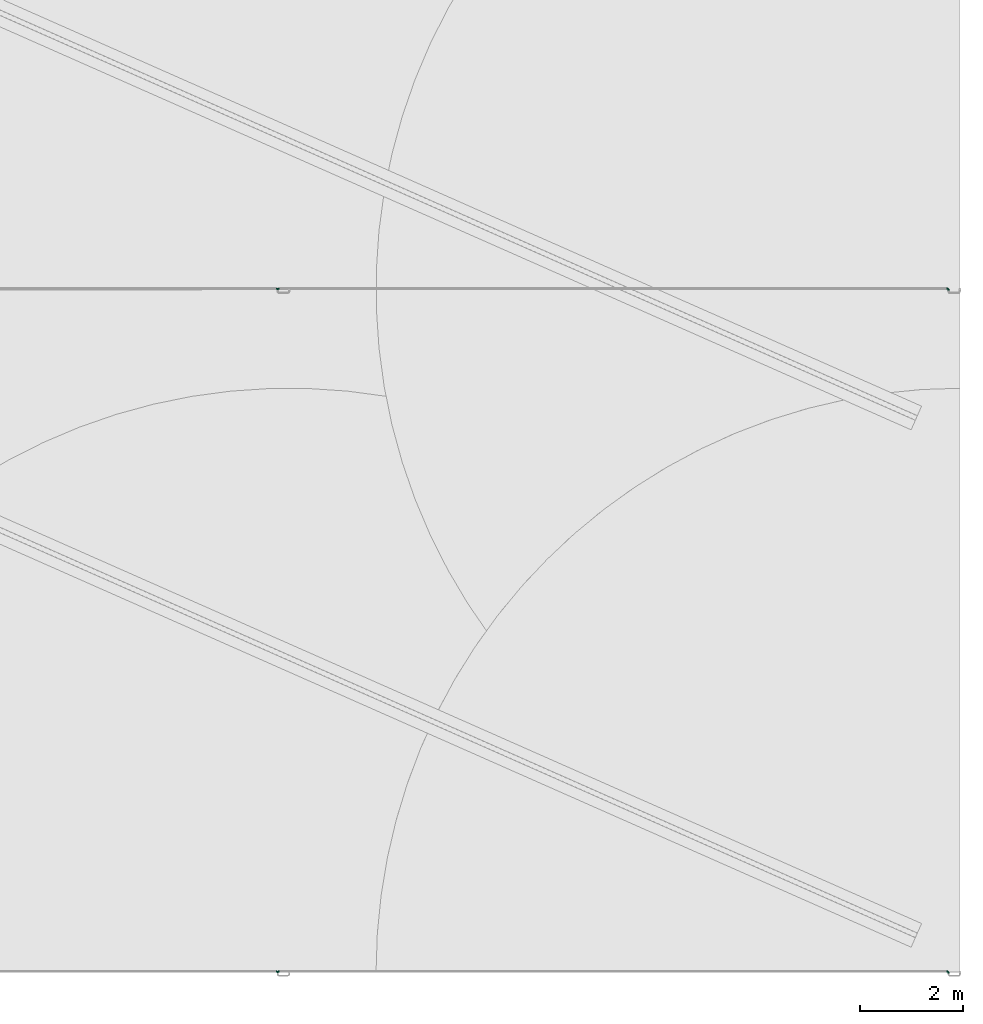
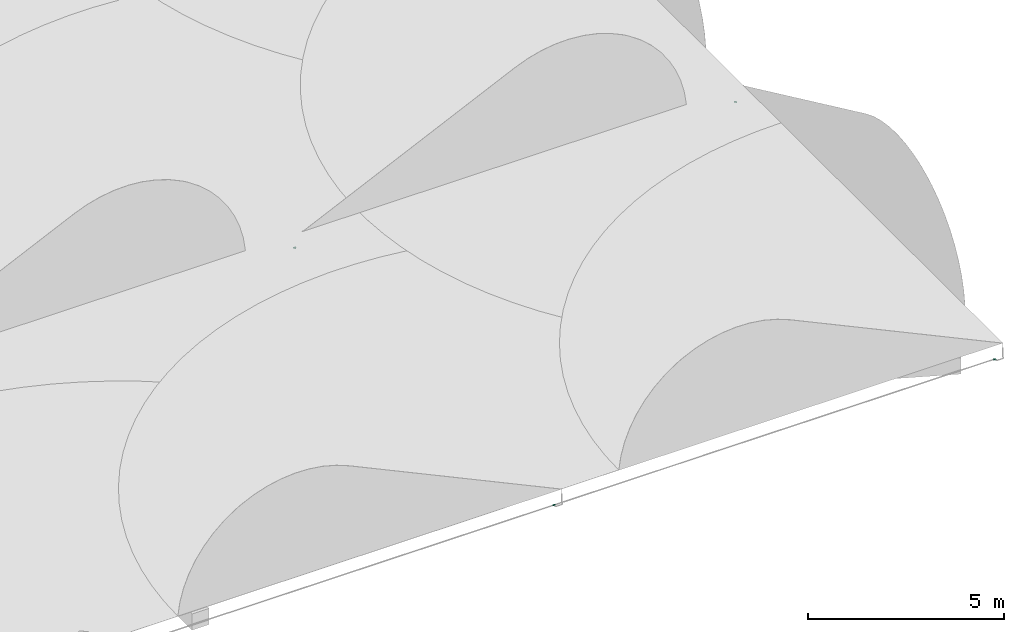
# One storey, part 154 of 166: 4 flow fittings.
"""IFC2X3 building model written with IfcOpenShell, lengths in metres."""

from ifc_helpers import new_model, entity, si_unit, converted_unit, direction, frame, origin, place, context, subcontext, project, spatial, faceted_brep, source, transform, mapped, material, type_object, type_shapes, element, save


model = new_model("IFC2X3")

# Units and contexts
model_context = context("Model", 3, precision=1e-05, world=origin(), true_north=direction((6.123233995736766e-17, 1.0)))
body_context = subcontext(model_context, "Body", "Model", "MODEL_VIEW")
ifc_project = project(units=[si_unit("LENGTHUNIT", "METRE"), converted_unit("PLANEANGLEUNIT", "DEGREE", entity("IfcPlaneAngleMeasure", 0.017453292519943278), si_unit("PLANEANGLEUNIT", "RADIAN"), dimensions=[0, 0, 0, 0, 0, 0, 0]), si_unit("AREAUNIT", "SQUARE_METRE")], contexts=[model_context])

# Site, building, storey
site_placement = place(None, origin())
site = spatial("IfcSite", under=ifc_project, at=site_placement, Name="Default", CompositionType="ELEMENT")
building_placement = place(site_placement, origin())
building = spatial("IfcBuilding", under=site, at=building_placement, Name="CASA DE ACOLHIDA PARA IDOSOS", CompositionType="ELEMENT")
storey_placement = place(building_placement, frame((0.0, 0.0, -1.7499999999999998)))
storey = spatial("IfcBuildingStorey", under=building, at=storey_placement, Name="IMPLANTAÇÃO DRENAGEM", CompositionType="ELEMENT", Elevation=-1.7499999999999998)

# Flow fittings
ifc_material = material(Name="PVC Branco")
pipe_fitting_type_1 = type_object("IfcPipeFittingType", Name="AF_Roscavel_Te_Reducao:Standard", PredefinedType="NOTDEFINED", material=ifc_material)
shared_shape_1 = source(origin(), body_context, "Body", "Brep", [
    faceted_brep([(-0.009400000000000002, 0.014040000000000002, 0.0), (-0.010499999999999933, 0.011611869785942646, -0.0063642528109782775), (-0.010500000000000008, 0.012355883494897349, -0.005006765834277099), (-0.010499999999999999, 0.0150999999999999, 0.0), (-0.009399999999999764, 0.008784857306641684, -0.006794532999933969), (-0.010499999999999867, 0.008123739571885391, -0.012728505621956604), (-0.009949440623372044, -0.009949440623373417, -0.010643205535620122), (-0.009399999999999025, -0.0019155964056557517, -0.012258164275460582), (-0.009399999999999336, -0.003706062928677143, -0.011820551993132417), (-0.009399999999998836, -0.006553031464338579, -0.011124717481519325), (-0.009399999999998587, -0.007976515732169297, -0.010776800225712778), (-0.009399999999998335, -0.009400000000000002, -0.010428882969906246), (-0.010499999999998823, -0.0025360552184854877, -0.011654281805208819), (-0.009399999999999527, 0.003529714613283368, -0.01358906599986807), (-0.010499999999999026, -0.0011881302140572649, -0.01179011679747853), (-0.01049999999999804, -0.010500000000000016, -0.010851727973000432), (-0.009949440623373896, -0.009949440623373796, 0.01064320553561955), (-0.009400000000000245, -0.009400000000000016, 0.010428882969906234), (-0.009400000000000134, -0.00657052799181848, 0.010641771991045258), (-0.009400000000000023, -0.0037410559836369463, 0.010854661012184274), (-0.00940000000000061, -0.0008331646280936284, 0.011073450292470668), (-0.009400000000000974, 0.007733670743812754, 0.011718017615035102), (-0.010500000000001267, 0.009299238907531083, 0.007344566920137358), (-0.010500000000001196, 0.003498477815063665, 0.014689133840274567), (-0.00940000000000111, 0.01088683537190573, 0.00585900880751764), (-0.010500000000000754, -0.002518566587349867, 0.013039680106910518), (-0.0105000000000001, -0.003500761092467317, 0.012770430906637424), (-0.010500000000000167, -0.010500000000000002, 0.01085172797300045), (-0.009399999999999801, 0.0019178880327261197, 0.011280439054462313), (-0.003273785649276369, -0.003273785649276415, 0.013652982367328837), (-0.0071620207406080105, -0.0071620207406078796, 0.011606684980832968), (0.00940000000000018, 0.0019178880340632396, 0.011280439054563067), (0.009400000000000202, 0.007733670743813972, 0.011718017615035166), (0.0, 0.0, 0.014039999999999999), (0.009400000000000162, -0.003741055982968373, 0.010854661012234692), (0.009400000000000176, -0.0008331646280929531, 0.011073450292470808), (0.006450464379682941, -0.006450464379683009, 0.012470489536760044), (0.00833239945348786, -0.008332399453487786, 0.01116785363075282), (0.009400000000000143, -0.009399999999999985, 0.010428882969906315), (0.009400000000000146, -0.00798526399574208, 0.010535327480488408), (0.009400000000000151, -0.006570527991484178, 0.010641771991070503), (0.009400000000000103, 0.01088683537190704, 0.005859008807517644), (0.009400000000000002, 0.014039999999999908, 0.0), (0.009399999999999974, 0.008784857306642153, -0.006794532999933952), (0.009399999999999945, 0.003529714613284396, -0.013589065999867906), (0.0, 0.0, -0.014039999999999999), (-0.006450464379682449, -0.006450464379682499, -0.012470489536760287), (-0.008332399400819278, -0.008332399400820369, -0.011167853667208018), (0.009400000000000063, -0.006553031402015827, -0.011124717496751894), (0.009400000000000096, -0.009399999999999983, -0.010428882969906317), (0.0071620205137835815, -0.0071620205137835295, -0.011606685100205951), (0.0032737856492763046, -0.0032737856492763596, -0.013652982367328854), (0.009400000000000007, -0.0019155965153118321, -0.012258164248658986), (0.009400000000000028, -0.0037060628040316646, -0.01182055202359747), (0.010499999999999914, 0.008123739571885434, 0.012728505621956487), (0.010499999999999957, 0.011611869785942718, 0.006364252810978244), (0.010500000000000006, -0.002536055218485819, 0.01165428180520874), (0.010499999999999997, -0.001188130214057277, 0.011790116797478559), (0.010499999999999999, 0.0151, 0.0), (0.009949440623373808, -0.00994944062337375, 0.010643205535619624), (0.010499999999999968, 0.012355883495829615, 0.005006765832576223), (0.010500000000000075, -0.01049999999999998, 0.010851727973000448), (0.010500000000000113, -0.002518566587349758, -0.013039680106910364), (0.00994944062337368, -0.009949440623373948, -0.010643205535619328), (0.010500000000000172, 0.0034984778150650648, -0.014689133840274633), (0.010500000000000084, 0.009299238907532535, -0.007344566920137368), (0.010500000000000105, -0.0035007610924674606, -0.012770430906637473), (0.010500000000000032, -0.010499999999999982, -0.010851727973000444), (-0.032, -0.007550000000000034, -0.013076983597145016), (-0.032, -0.0125, 0.0), (-0.032, -0.006250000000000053, -0.010825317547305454), (-0.032, -0.011325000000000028, -0.00653849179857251), (-0.032, 0.0062499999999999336, -0.010825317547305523), (-0.032, 0.0, -0.013076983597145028), (-0.032, -0.015100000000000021, 0.0), (-0.032, -0.006250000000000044, 0.010825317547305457), (-0.032, -0.011324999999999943, 0.006538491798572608), (-0.032, -0.00754999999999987, 0.01307698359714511), (-0.032, 0.006249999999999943, 0.010825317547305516), (-0.032, 0.0, 0.013076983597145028), (-0.032, 0.007550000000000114, 0.013076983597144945), (-0.032, 0.012256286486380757, 0.004925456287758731), (-0.032, 0.015099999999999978, 0.0), (-0.032, 0.0125, 0.0), (-0.032, 0.011324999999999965, -0.006538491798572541), (-0.032, 0.0075499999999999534, -0.01307698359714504), (-0.013760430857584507, -0.013760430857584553, 0.006217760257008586), (-0.015099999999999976, -0.015100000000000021, 0.0), (0.032000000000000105, -0.01132500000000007, 0.0065384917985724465), (0.015100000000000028, -0.0151, 0.0), (0.032000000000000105, -0.0151, 0.0), (-0.013760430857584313, -0.013760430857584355, -0.006217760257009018), (0.032000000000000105, -0.011324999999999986, -0.0065384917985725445), (0.032000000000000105, 0.007550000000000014, -0.013076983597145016), (0.032000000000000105, 0.0125, 0.0), (0.032000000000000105, 0.006250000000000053, -0.010825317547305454), (0.032000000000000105, 0.012256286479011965, -0.004925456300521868), (0.032000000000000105, -0.0062499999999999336, -0.010825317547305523), (0.032000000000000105, 0.0, -0.013076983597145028), (0.032000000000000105, 0.0151, 0.0), (0.032000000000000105, 0.006250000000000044, 0.010825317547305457), (0.032000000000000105, 0.011324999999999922, 0.006538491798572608), (0.032000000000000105, 0.00754999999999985, 0.01307698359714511), (0.032000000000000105, -0.006249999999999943, 0.010825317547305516), (0.032000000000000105, 0.0, 0.013076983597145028), (0.032000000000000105, -0.007550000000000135, 0.013076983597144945), (0.032000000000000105, -0.0125, 0.0), (0.032000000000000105, -0.007549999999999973, -0.01307698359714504), (0.013760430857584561, -0.013760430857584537, 0.00621776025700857), (0.013760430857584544, -0.013760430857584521, -0.006217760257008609), (-0.01589999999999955, -0.0125, 0.0), (-0.01589999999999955, -0.006250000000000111, 0.010825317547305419), (-0.01589999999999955, 0.006249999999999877, 0.010825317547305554), (-0.01589999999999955, 0.0125, 0.0), (-0.01589999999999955, 0.006250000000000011, -0.010825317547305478), (-0.01589999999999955, -0.0062499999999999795, -0.010825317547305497), (0.01590000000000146, -0.012499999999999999, 0.0), (0.015900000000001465, -0.006249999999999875, 0.010825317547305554), (0.015900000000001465, 0.006250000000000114, 0.010825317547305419), (0.006250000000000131, -0.031999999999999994, 0.010825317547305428), (-0.006249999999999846, -0.03200000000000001, 0.01082531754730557), (-0.006249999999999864, -0.015900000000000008, 0.010825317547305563), (0.006250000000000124, -0.015900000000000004, 0.010825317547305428), (0.015900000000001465, 0.012500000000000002, 0.0), (0.015900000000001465, 0.006249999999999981, -0.010825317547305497), (0.015900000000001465, -0.006250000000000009, -0.010825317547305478), (-0.0062499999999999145, -0.03200000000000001, -0.010825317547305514), (0.006250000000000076, -0.031999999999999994, -0.010825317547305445), (0.006249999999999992, -0.015900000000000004, -0.01082531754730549), (-0.006249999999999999, -0.015900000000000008, -0.010825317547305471), (0.012500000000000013, -0.0159, 0.0), (-0.012499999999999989, -0.01590000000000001, 0.0), (0.012500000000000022, -0.03199999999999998, 0.0), (-0.01249999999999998, -0.03200000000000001, 0.0), (-0.005668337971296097, -0.00940000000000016, -0.01186229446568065), (9.767713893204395e-07, -0.009400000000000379, -0.014039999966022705), (0.005668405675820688, -0.009399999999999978, 0.011862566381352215), (9.767713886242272e-07, -0.00939999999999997, 0.014039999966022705), (0.0016561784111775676, -0.010500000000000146, 0.015008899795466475), (-0.0025917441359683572, -0.010500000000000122, 0.01355619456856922), (-0.001654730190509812, -0.010499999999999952, -0.015009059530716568), (0.0025918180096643, -0.010500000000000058, -0.013556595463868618), (0.007550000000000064, -0.03199999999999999, -0.013076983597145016), (0.011325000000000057, -0.03199999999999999, -0.00653849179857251), (0.0, -0.032, -0.013076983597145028), (0.015100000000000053, -0.03199999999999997, 0.0), (0.011324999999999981, -0.03199999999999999, 0.006538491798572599), (0.007549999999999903, -0.03199999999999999, 0.01307698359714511), (0.0, -0.032, 0.013076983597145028), (-0.007550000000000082, -0.032000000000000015, 0.013076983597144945), (-0.011325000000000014, -0.03200000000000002, 0.006538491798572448), (-0.015099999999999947, -0.03200000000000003, 0.0), (-0.011324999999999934, -0.03200000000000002, -0.006538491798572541), (-0.0075499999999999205, -0.032000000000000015, -0.01307698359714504)], [[[0, 1, 2, 3]], [[4, 5, 1]], [[6, 7, 8, 9, 10, 11]], [[12, 7, 6]], [[13, 12, 14, 5]], [[13, 7, 12]], [[0, 4, 1]], [[5, 4, 13]], [[6, 15, 12]], [[16, 17, 18, 19, 20]], [[21, 22, 23]], [[3, 24, 0]], [[3, 22, 24]], [[25, 20, 23]], [[22, 21, 24]], [[16, 25, 26, 27]], [[20, 25, 16]], [[23, 20, 28, 21]], [[29, 28, 20, 19, 18, 17, 30]], [[31, 32, 33, 34, 35]], [[33, 28, 29]], [[36, 37, 38, 39, 40, 34]], [[21, 32, 41, 42, 0, 24]], [[32, 21, 33]], [[21, 28, 33]], [[36, 34, 33]], [[43, 44, 45]], [[45, 13, 4]], [[9, 8, 46, 47, 11, 10]], [[43, 4, 0, 42]], [[48, 49, 50, 51, 44, 52, 53]], [[45, 8, 7, 13]], [[46, 8, 45]], [[51, 45, 44]], [[4, 43, 45]], [[32, 54, 55]], [[55, 41, 32]], [[35, 56, 57, 54]], [[42, 41, 58]], [[59, 35, 34, 40, 39, 38]], [[54, 32, 31, 35]], [[41, 55, 60, 58]], [[59, 56, 35]], [[59, 61, 56]], [[52, 62, 63]], [[44, 64, 52]], [[58, 43, 42]], [[58, 65, 43]], [[63, 49, 48, 53, 52]], [[65, 44, 43]], [[63, 62, 66, 67]], [[44, 65, 64]], [[62, 52, 64]], [[68, 69, 70]], [[69, 68, 71]], [[68, 70, 72]], [[72, 73, 68]], [[69, 71, 74]], [[75, 69, 74]], [[75, 74, 76]], [[75, 76, 77]], [[75, 77, 78]], [[78, 77, 79]], [[78, 79, 80]], [[78, 80, 81]], [[78, 81, 82]], [[82, 83, 78]], [[83, 82, 84]], [[83, 84, 85]], [[85, 72, 83]], [[72, 85, 73]], [[22, 80, 23]], [[23, 80, 79]], [[81, 22, 3]], [[77, 27, 26]], [[80, 22, 81]], [[86, 76, 87]], [[3, 82, 81]], [[26, 79, 77]], [[86, 77, 76]], [[74, 87, 76]], [[88, 89, 90]], [[79, 26, 25, 23]], [[86, 27, 77]], [[82, 3, 2]], [[91, 71, 68]], [[87, 71, 91]], [[15, 91, 68]], [[71, 87, 74]], [[90, 89, 92]], [[68, 14, 12, 15]], [[73, 85, 5]], [[5, 85, 84]], [[84, 82, 2]], [[73, 5, 14]], [[14, 68, 73]], [[84, 2, 1, 5]], [[93, 94, 95]], [[94, 93, 96]], [[93, 95, 97]], [[97, 98, 93]], [[94, 96, 99]], [[100, 94, 99]], [[100, 99, 101]], [[100, 101, 102]], [[100, 102, 103]], [[103, 102, 104]], [[103, 104, 105]], [[103, 105, 88]], [[103, 88, 90]], [[90, 106, 103]], [[106, 90, 92]], [[106, 92, 107]], [[107, 97, 106]], [[97, 107, 98]], [[99, 58, 60]], [[108, 88, 105]], [[89, 88, 108]], [[61, 108, 105]], [[105, 57, 56, 61]], [[104, 102, 54]], [[54, 102, 101]], [[101, 99, 60]], [[104, 54, 57]], [[57, 105, 104]], [[101, 60, 55, 54]], [[65, 93, 64]], [[64, 93, 98]], [[96, 65, 58]], [[107, 67, 66]], [[93, 65, 96]], [[109, 92, 89]], [[58, 99, 96]], [[66, 98, 107]], [[109, 107, 92]], [[98, 66, 62, 64]], [[109, 67, 107]], [[110, 111, 112, 113, 114, 115]], [[69, 75, 111, 110]], [[103, 106, 116, 117]], [[75, 78, 112, 111]], [[100, 103, 117, 118]], [[119, 120, 121, 122]], [[78, 83, 113, 112]], [[94, 100, 118, 123]], [[83, 72, 114, 113]], [[95, 94, 123, 124]], [[72, 70, 115, 114]], [[97, 95, 124, 125]], [[126, 127, 128, 129]], [[70, 69, 110, 115]], [[106, 97, 125, 116]], [[123, 118, 117, 116, 125, 124]], [[130, 122, 121, 131, 129, 128]], [[132, 119, 122, 130]], [[120, 133, 131, 121]], [[133, 126, 129, 131]], [[127, 132, 130, 128]], [[46, 45, 51]], [[134, 11, 47, 46, 135]], [[135, 51, 50, 49]], [[51, 135, 46]], [[136, 38, 37, 36, 137]], [[137, 36, 29]], [[137, 29, 30, 17]], [[33, 29, 36]], [[138, 59, 137]], [[16, 139, 137]], [[138, 61, 59]], [[59, 38, 136, 137]], [[17, 16, 137]], [[137, 139, 138]], [[16, 27, 139]], [[140, 6, 135]], [[63, 141, 135]], [[140, 15, 6]], [[6, 11, 134, 135]], [[49, 63, 135]], [[135, 141, 140]], [[63, 67, 141]], [[142, 132, 127]], [[132, 142, 143]], [[142, 127, 126]], [[126, 144, 142]], [[132, 143, 145]], [[119, 132, 145]], [[119, 145, 146]], [[119, 146, 147]], [[119, 147, 120]], [[120, 147, 148]], [[120, 148, 149]], [[120, 149, 150]], [[120, 150, 151]], [[151, 133, 120]], [[133, 151, 152]], [[133, 152, 153]], [[153, 126, 133]], [[126, 153, 144]], [[87, 151, 150]], [[87, 150, 86]], [[149, 86, 150]], [[86, 149, 27]], [[149, 138, 139, 27]], [[145, 89, 146]], [[89, 108, 146]], [[108, 147, 146]], [[138, 149, 148, 147]], [[138, 147, 61]], [[147, 108, 61]], [[89, 145, 143]], [[89, 143, 109]], [[142, 109, 143]], [[109, 142, 67]], [[142, 140, 141, 67]], [[151, 87, 152]], [[87, 91, 152]], [[91, 153, 152]], [[140, 142, 144, 153]], [[140, 153, 15]], [[153, 91, 15]]]),
])
type_shapes(pipe_fitting_type_1, [shared_shape_1])
for number, where, z_axis, x_axis, name in (
    (1, (33.00905110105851, -3.5450579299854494, -0.19999999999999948), (0.0, 0.0, -1.0), (-1.0, 0.0, 0.0), "AF_Roscavel_Te_Reducao:Standard"),
    (2, (33.009051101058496, -16.74505792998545, -0.19999999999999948), (0.0, 0.0, -1.0), (-1.0, 0.0, 0.0), "AF_Roscavel_Te_Reducao:Standard"),
):
    element("IfcFlowFitting", number, at=place(storey_placement, frame(where, z_axis=z_axis, x_axis=x_axis)), inside=storey, type_object=pipe_fitting_type_1, material=ifc_material, Name=name, ObjectType="AF_Roscavel_Te_Reducao:Standard", context=body_context, shape_type="MappedRepresentation", body=[
        mapped(shared_shape_1, transform((0.0, 0.0, 0.0), scale=1.0)),
    ])
pipe_fitting_type_2 = type_object("IfcPipeFittingType", Name="AF_Roscavel _Joelho 45_90:Standard", PredefinedType="NOTDEFINED", material=ifc_material)
shared_shape_2 = source(origin(), body_context, "Body", "Brep", [
    faceted_brep([(-0.01679999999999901, -0.012616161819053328, -0.010587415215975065), (-0.00016499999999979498, -0.01201266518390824, 0.0), (-0.01679999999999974, -0.016469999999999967, 0.0), (0.008619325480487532, 0.003305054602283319, -0.01130283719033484), (-0.0019587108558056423, -0.007478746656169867, -0.011636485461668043), (-0.002997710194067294, 0.004547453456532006, -0.01638652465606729), (0.008606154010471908, 0.003179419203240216, 0.0), (-0.01679999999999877, 0.0028622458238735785, -0.01621938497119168), (-0.01679999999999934, 0.012618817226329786, -0.010584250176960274), (-0.01656665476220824, 0.016566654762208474, 0.0), (-0.0167999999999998, 0.016470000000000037, 0.0), (-0.016799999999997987, -0.004876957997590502, -0.013403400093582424), (0.002858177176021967, 0.016799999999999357, -0.016220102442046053), (0.012616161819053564, 0.016799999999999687, -0.010587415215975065), (-0.01261881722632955, 0.01679999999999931, -0.010584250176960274), (-0.004880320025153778, 0.016799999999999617, -0.013402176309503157), (-0.0164699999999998, 0.016800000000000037, 0.0), (0.016470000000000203, 0.01679999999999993, 0.0), (0.005872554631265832, 0.002004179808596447, 0.012873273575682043), (0.012616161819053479, 0.01679999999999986, 0.010587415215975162), (0.004876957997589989, 0.016800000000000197, 0.013403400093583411), (-0.0028622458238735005, 0.01679999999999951, 0.01621938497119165), (-0.003427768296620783, -0.008647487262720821, 0.011337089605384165), (-0.006437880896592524, 0.004263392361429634, 0.01646129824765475), (-0.016799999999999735, -0.012616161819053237, 0.01058741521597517), (-0.01679999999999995, -0.0028581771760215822, 0.016220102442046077), (-0.01680000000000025, 0.012618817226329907, 0.010584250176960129), (-0.012618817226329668, 0.016799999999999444, 0.01058425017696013), (-0.016800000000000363, 0.004880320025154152, 0.01340217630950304), (-0.0357999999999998, -0.004736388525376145, -0.017676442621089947), (-0.0357999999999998, -0.003235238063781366, -0.012074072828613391), (-0.0357999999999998, 0.0032352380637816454, -0.01207407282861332), (-0.0357999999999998, -0.015848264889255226, -0.00914999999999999), (-0.0357999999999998, 0.004736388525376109, -0.01767644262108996), (-0.0357999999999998, -0.0108253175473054, -0.0062500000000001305), (-0.0357999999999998, -0.012499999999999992, 0.0), (-0.0357999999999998, -0.018299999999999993, 0.0), (-0.0357999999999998, -0.010825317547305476, 0.006249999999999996), (-0.0357999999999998, -0.01584826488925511, 0.009150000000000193), (-0.0357999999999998, -0.003235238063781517, 0.01207407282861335), (-0.0357999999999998, -0.004736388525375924, 0.017676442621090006), (-0.0357999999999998, 0.003235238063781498, 0.012074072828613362), (-0.0357999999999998, 0.004736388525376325, 0.017676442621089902), (-0.0357999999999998, 0.010825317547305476, 0.006250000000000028), (-0.0357999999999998, 0.015848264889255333, 0.009149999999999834), (-0.0357999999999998, 0.01830000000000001, 0.0), (-0.0357999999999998, 0.01250000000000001, 0.0), (-0.0357999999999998, 0.015848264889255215, -0.009150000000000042), (-0.0357999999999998, 0.01082531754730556, -0.006249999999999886), (-0.017899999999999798, 0.01082531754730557, -0.006249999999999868), (-0.017899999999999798, 0.01250000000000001, 0.0), (-0.017899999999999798, 0.0032352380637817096, -0.012074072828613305), (-0.017899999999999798, -0.003235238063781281, -0.012074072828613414), (0.0032352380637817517, 0.03580000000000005, -0.01207407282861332), (-0.00323523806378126, 0.03580000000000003, -0.012074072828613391), (-0.0032352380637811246, 0.017899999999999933, -0.012074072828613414), (0.0032352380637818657, 0.017900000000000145, -0.012074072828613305), (-0.017899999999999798, -0.01082531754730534, -0.006250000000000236), (-0.017899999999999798, -0.012499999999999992, 0.0), (-0.017899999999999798, -0.010825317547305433, 0.006250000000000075), (-0.017899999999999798, -0.003235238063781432, 0.012074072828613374), (-0.017899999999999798, 0.003235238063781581, 0.012074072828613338), (-0.003235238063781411, 0.03580000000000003, 0.01207407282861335), (0.0032352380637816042, 0.03580000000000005, 0.012074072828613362), (0.0032352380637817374, 0.017900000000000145, 0.012074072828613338), (-0.0032352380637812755, 0.017899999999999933, 0.012074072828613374), (-0.017899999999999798, 0.010825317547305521, 0.006249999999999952), (-0.01829999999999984, 0.01830000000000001, 0.0), (-0.018198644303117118, 0.018198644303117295, 0.0019233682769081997), (-0.017900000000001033, 0.01789999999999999, 0.0038052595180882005), (-0.01789999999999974, 0.011924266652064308, 0.013881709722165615), (-0.017899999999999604, 0.001061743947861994, 0.01826917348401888), (-0.01789999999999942, -0.014552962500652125, 0.011095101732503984), (-0.017900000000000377, -0.0067456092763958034, 0.014682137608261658), (-0.017899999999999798, -0.018299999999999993, 0.0), (-0.017899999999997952, -0.014552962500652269, -0.011095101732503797), (-0.01789999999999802, -0.004841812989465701, -0.017647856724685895), (-0.017899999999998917, 0.011924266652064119, -0.013881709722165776), (-0.018198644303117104, 0.018198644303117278, -0.0019233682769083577), (-0.017899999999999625, 0.017899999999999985, -0.0038052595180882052), (-0.0178999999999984, 0.0035412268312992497, -0.01576478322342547), (-0.01729726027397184, 0.017297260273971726, 0.0), (-0.01746011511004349, 0.017460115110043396, -0.0019456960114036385), (-0.017460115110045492, 0.017460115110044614, 0.0019456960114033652), (-0.004736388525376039, 0.035800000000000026, -0.017676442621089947), (-0.01584826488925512, 0.03579999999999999, -0.00914999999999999), (0.004736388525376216, 0.035800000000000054, -0.01767644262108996), (-0.010825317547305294, 0.035800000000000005, -0.0062500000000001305), (-0.012499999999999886, 0.035800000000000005, 0.0), (-0.01829999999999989, 0.035799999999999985, 0.0), (-0.010825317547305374, 0.035800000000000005, 0.006249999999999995), (-0.015848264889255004, 0.03579999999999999, 0.009150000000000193), (-0.004736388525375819, 0.035800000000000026, 0.017676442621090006), (0.004736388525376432, 0.035800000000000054, 0.017676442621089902), (0.010825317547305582, 0.03580000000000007, 0.006250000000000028), (0.01584826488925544, 0.03580000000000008, 0.009149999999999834), (0.018300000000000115, 0.03580000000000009, 0.0), (0.012500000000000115, 0.035800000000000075, 0.0), (0.01584826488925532, 0.03580000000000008, -0.009150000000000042), (0.010825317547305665, 0.03580000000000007, -0.006249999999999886), (0.018300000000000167, 0.01790000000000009, 0.0), (0.014552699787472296, 0.01790000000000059, 0.011095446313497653), (0.004841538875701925, 0.017900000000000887, 0.01764793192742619), (-0.011924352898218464, 0.01790000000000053, 0.013881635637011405), (-0.00354140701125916, 0.017900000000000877, 0.015764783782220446), (-0.011924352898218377, 0.017899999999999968, -0.013881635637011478), (-0.0010619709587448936, 0.017900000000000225, -0.018269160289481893), (0.01455269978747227, 0.017900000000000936, -0.011095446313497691), (0.006745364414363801, 0.017899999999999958, -0.014682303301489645), (0.010825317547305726, 0.01790000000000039, -0.006249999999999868), (0.012500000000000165, 0.017900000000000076, 0.0), (-0.010825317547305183, 0.017899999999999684, -0.006250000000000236), (-0.012499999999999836, 0.01789999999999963, 0.0), (-0.010825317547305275, 0.017899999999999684, 0.006250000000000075), (0.010825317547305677, 0.01790000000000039, 0.006249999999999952)], [[[0, 1, 2]], [[3, 4, 5]], [[4, 3, 6]], [[7, 8, 5]], [[9, 8, 10]], [[4, 0, 11, 7]], [[12, 13, 3]], [[4, 6, 1]], [[6, 3, 13]], [[14, 5, 8]], [[4, 1, 0]], [[5, 14, 15, 12]], [[16, 14, 9]], [[14, 8, 9]], [[12, 3, 5]], [[5, 4, 7]], [[17, 6, 13]], [[18, 19, 20, 21]], [[6, 18, 1]], [[22, 1, 18]], [[23, 18, 21]], [[1, 24, 2]], [[25, 22, 23]], [[22, 24, 1]], [[9, 10, 26]], [[27, 16, 9]], [[26, 23, 27]], [[6, 17, 19]], [[27, 23, 21]], [[22, 25, 24]], [[23, 22, 18]], [[23, 26, 28, 25]], [[18, 6, 19]], [[26, 27, 9]], [[29, 30, 31]], [[30, 29, 32]], [[31, 33, 29]], [[32, 34, 30]], [[32, 35, 34]], [[35, 32, 36]], [[37, 35, 36]], [[37, 36, 38]], [[38, 39, 37]], [[38, 40, 39]], [[39, 40, 41]], [[42, 41, 40]], [[42, 43, 41]], [[43, 42, 44]], [[45, 43, 44]], [[46, 43, 45]], [[47, 46, 45]], [[47, 48, 46]], [[48, 47, 33]], [[33, 31, 48]], [[49, 50, 46, 48]], [[51, 49, 48, 31]], [[31, 30, 52, 51]], [[53, 54, 55, 56]], [[57, 52, 30, 34]], [[58, 57, 34, 35]], [[59, 58, 35, 37]], [[60, 59, 37, 39]], [[39, 41, 61, 60]], [[62, 63, 64, 65]], [[66, 61, 41, 43]], [[50, 66, 43, 46]], [[67, 45, 68]], [[68, 45, 44]], [[44, 69, 68]], [[69, 44, 70]], [[44, 42, 70]], [[71, 42, 40]], [[72, 40, 38]], [[40, 72, 73, 71]], [[74, 72, 38]], [[36, 74, 38]], [[42, 71, 70]], [[74, 36, 32]], [[75, 32, 29]], [[32, 75, 74]], [[75, 29, 76]], [[29, 33, 76]], [[77, 33, 47]], [[78, 47, 45]], [[77, 47, 79]], [[79, 47, 78]], [[45, 67, 78]], [[33, 77, 80, 76]], [[59, 60, 61, 66, 50, 49, 51, 52, 57, 58]], [[81, 10, 8]], [[81, 8, 82]], [[82, 77, 79]], [[77, 82, 8]], [[7, 76, 80, 77]], [[0, 75, 11]], [[75, 0, 2]], [[7, 11, 76]], [[11, 75, 76]], [[74, 75, 2]], [[7, 77, 8]], [[73, 24, 25]], [[2, 24, 72]], [[72, 74, 2]], [[24, 73, 72]], [[71, 25, 28]], [[70, 28, 26]], [[26, 10, 81]], [[26, 81, 83]], [[70, 83, 69]], [[83, 70, 26]], [[25, 71, 73]], [[71, 28, 70]], [[84, 54, 53]], [[54, 84, 85]], [[53, 86, 84]], [[85, 87, 54]], [[85, 88, 87]], [[88, 85, 89]], [[90, 88, 89]], [[90, 89, 91]], [[91, 62, 90]], [[91, 92, 62]], [[62, 92, 63]], [[93, 63, 92]], [[93, 94, 63]], [[94, 93, 95]], [[96, 94, 95]], [[97, 94, 96]], [[98, 97, 96]], [[98, 99, 97]], [[99, 98, 86]], [[86, 53, 99]], [[100, 96, 95]], [[101, 95, 93]], [[95, 101, 100]], [[101, 93, 102]], [[93, 92, 102]], [[103, 92, 91]], [[68, 91, 89]], [[103, 91, 69]], [[69, 91, 68]], [[89, 67, 68]], [[92, 103, 104, 102]], [[67, 89, 78]], [[78, 89, 85]], [[85, 79, 78]], [[79, 85, 105]], [[85, 84, 105]], [[106, 84, 86]], [[107, 86, 98]], [[86, 107, 108, 106]], [[100, 107, 98]], [[96, 100, 98]], [[84, 106, 105]], [[109, 110, 97, 99]], [[56, 109, 99, 53]], [[111, 55, 54, 87]], [[112, 111, 87, 88]], [[113, 112, 88, 90]], [[65, 113, 90, 62]], [[114, 64, 63, 94]], [[110, 114, 94, 97]], [[113, 65, 64, 114, 110, 109, 56, 55, 111, 112]], [[108, 13, 12]], [[17, 13, 107]], [[107, 100, 17]], [[13, 108, 107]], [[106, 12, 15]], [[105, 15, 14]], [[14, 16, 81]], [[14, 81, 82]], [[105, 82, 79]], [[82, 105, 14]], [[12, 106, 108]], [[106, 15, 105]], [[81, 16, 27]], [[81, 27, 83]], [[83, 103, 69]], [[103, 83, 27]], [[21, 102, 104, 103]], [[19, 101, 20]], [[101, 19, 17]], [[21, 20, 102]], [[20, 101, 102]], [[100, 101, 17]], [[21, 103, 27]]]),
])
type_shapes(pipe_fitting_type_2, [shared_shape_2])
for number, where, z_axis, x_axis, name in (
    (3, (45.97645110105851, -3.54505792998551, -0.19999999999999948), (0.0, 0.0, 1.0), (0.0, 1.0, 0.0), "AF_Roscavel _Joelho 45_90:Standard"),
    (4, (45.976451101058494, -16.74505792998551, -0.19999999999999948), (0.0, 0.0, 1.0), (0.0, 1.0, 0.0), "AF_Roscavel _Joelho 45_90:Standard"),
):
    element("IfcFlowFitting", number, at=place(storey_placement, frame(where, z_axis=z_axis, x_axis=x_axis)), inside=storey, type_object=pipe_fitting_type_2, material=ifc_material, Name=name, ObjectType="AF_Roscavel _Joelho 45_90:Standard", context=body_context, shape_type="MappedRepresentation", body=[
        mapped(shared_shape_2, transform((0.0, 0.0, 0.0), scale=1.0)),
    ])

save(model, "model.ifc")
